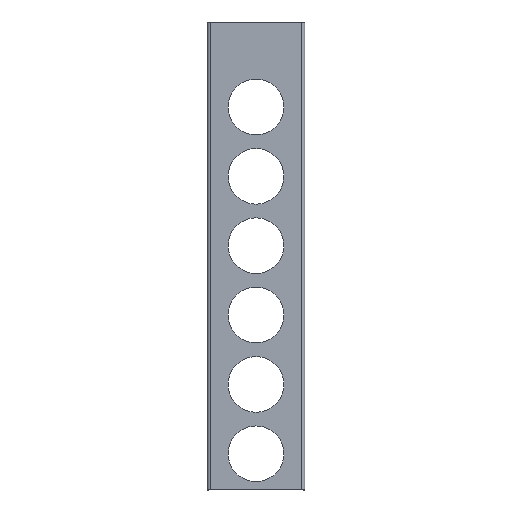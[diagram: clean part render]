
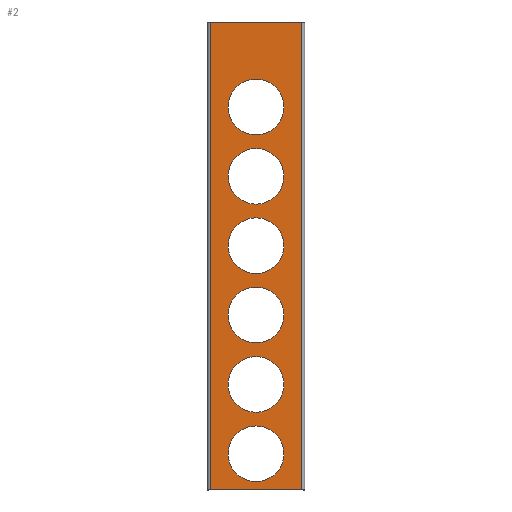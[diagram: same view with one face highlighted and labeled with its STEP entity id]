
A CAD part, top view. The second image highlights one B-rep face of the part: STEP entity #2.
In plain terms, the highlighted planar face has unit normal (0, 0, 1).
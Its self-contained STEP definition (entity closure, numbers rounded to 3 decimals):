
#2 = ADVANCED_FACE ( 'NONE', ( #622, #615, #613, #823, #644, #560, #625 ), #501, .T. ) ;
#36 = EDGE_CURVE ( 'NONE', #377, #369, #769, .T. ) ;
#37 = EDGE_CURVE ( 'NONE', #448, #483, #768, .T. ) ;
#40 = EDGE_CURVE ( 'NONE', #405, #389, #770, .T. ) ;
#41 = EDGE_CURVE ( 'NONE', #386, #349, #760, .T. ) ;
#50 = AXIS2_PLACEMENT_3D ( 'NONE', #361, #335, #334 ) ;
#56 = AXIS2_PLACEMENT_3D ( 'NONE', #410, #402, #400 ) ;
#59 = AXIS2_PLACEMENT_3D ( 'NONE', #420, #409, #408 ) ;
#64 = AXIS2_PLACEMENT_3D ( 'NONE', #430, #429, #428 ) ;
#66 = AXIS2_PLACEMENT_3D ( 'NONE', #368, #355, #353 ) ;
#74 = AXIS2_PLACEMENT_3D ( 'NONE', #492, #490, #488 ) ;
#75 = AXIS2_PLACEMENT_3D ( 'NONE', #495, #494, #493 ) ;
#77 = AXIS2_PLACEMENT_3D ( 'NONE', #498, #497, #496 ) ;
#80 = AXIS2_PLACEMENT_3D ( 'NONE', #511, #510, #509 ) ;
#82 = AXIS2_PLACEMENT_3D ( 'NONE', #531, #529, #528 ) ;
#109 = AXIS2_PLACEMENT_3D ( 'NONE', #388, #316, #314 ) ;
#111 = EDGE_CURVE ( 'NONE', #483, #448, #743, .T. ) ;
#115 = EDGE_CURVE ( 'NONE', #328, #325, #738, .T. ) ;
#116 = EDGE_CURVE ( 'NONE', #364, #360, #737, .T. ) ;
#117 = EDGE_CURVE ( 'NONE', #369, #377, #735, .T. ) ;
#138 = EDGE_CURVE ( 'NONE', #375, #467, #703, .T. ) ;
#144 = EDGE_CURVE ( 'NONE', #389, #385, #695, .T. ) ;
#145 = EDGE_CURVE ( 'NONE', #467, #375, #690, .T. ) ;
#147 = EDGE_CURVE ( 'NONE', #325, #328, #686, .T. ) ;
#154 = EDGE_CURVE ( 'NONE', #385, #455, #680, .T. ) ;
#157 = EDGE_CURVE ( 'NONE', #349, #386, #669, .T. ) ;
#161 = EDGE_CURVE ( 'NONE', #455, #405, #663, .T. ) ;
#162 = EDGE_CURVE ( 'NONE', #360, #364, #660, .T. ) ;
#168 = AXIS2_PLACEMENT_3D ( 'NONE', #545, #542, #541 ) ;
#171 = AXIS2_PLACEMENT_3D ( 'NONE', #540, #539, #538 ) ;
#257 = CARTESIAN_POINT ( 'NONE',  ( 28.5, 250., 40. ) ) ;
#260 = CARTESIAN_POINT ( 'NONE',  ( -28.5, 179., 40. ) ) ;
#263 = CARTESIAN_POINT ( 'NONE',  ( -47., 479., 40. ) ) ;
#266 = CARTESIAN_POINT ( 'NONE',  ( -28.5, 250., 40. ) ) ;
#271 = CARTESIAN_POINT ( 'NONE',  ( 47., 479., 40. ) ) ;
#280 = CARTESIAN_POINT ( 'NONE',  ( 47., 0., 40. ) ) ;
#281 = CARTESIAN_POINT ( 'NONE',  ( -28.5, 108., 40. ) ) ;
#282 = CARTESIAN_POINT ( 'NONE',  ( -47., 0., 40. ) ) ;
#288 = CARTESIAN_POINT ( 'NONE',  ( -28.5, 392., 40. ) ) ;
#289 = CARTESIAN_POINT ( 'NONE',  ( 28.5, 179., 40. ) ) ;
#291 = CARTESIAN_POINT ( 'NONE',  ( 28.5, 392., 40. ) ) ;
#294 = CARTESIAN_POINT ( 'NONE',  ( 28.5, 321., 40. ) ) ;
#297 = CARTESIAN_POINT ( 'NONE',  ( -28.5, 321., 40. ) ) ;
#302 = CARTESIAN_POINT ( 'NONE',  ( 28.5, 108., 40. ) ) ;
#310 = CARTESIAN_POINT ( 'NONE',  ( 28.5, 37., 40. ) ) ;
#311 = CARTESIAN_POINT ( 'NONE',  ( -28.5, 37., 40. ) ) ;
#314 = DIRECTION ( 'NONE',  ( 1., 0., 0. ) ) ;
#316 = DIRECTION ( 'NONE',  ( 0., 0., 1. ) ) ;
#325 = VERTEX_POINT ( 'NONE', #311 ) ;
#328 = VERTEX_POINT ( 'NONE', #310 ) ;
#334 = DIRECTION ( 'NONE',  ( 1., 0., 0. ) ) ;
#335 = DIRECTION ( 'NONE',  ( 0., 0., -1. ) ) ;
#338 = DIRECTION ( 'NONE',  ( 1., 0., 0. ) ) ;
#340 = CARTESIAN_POINT ( 'NONE',  ( 47., 479., 40. ) ) ;
#349 = VERTEX_POINT ( 'NONE', #302 ) ;
#353 = DIRECTION ( 'NONE',  ( 1., 0., 0. ) ) ;
#355 = DIRECTION ( 'NONE',  ( 0., 0., -1. ) ) ;
#360 = VERTEX_POINT ( 'NONE', #297 ) ;
#361 = CARTESIAN_POINT ( 'NONE',  ( 0., 321., 40. ) ) ;
#364 = VERTEX_POINT ( 'NONE', #294 ) ;
#368 = CARTESIAN_POINT ( 'NONE',  ( 0., 108., 40. ) ) ;
#369 = VERTEX_POINT ( 'NONE', #291 ) ;
#370 = DIRECTION ( 'NONE',  ( 0., 1., 0. ) ) ;
#371 = CARTESIAN_POINT ( 'NONE',  ( -47., 479., 40. ) ) ;
#375 = VERTEX_POINT ( 'NONE', #289 ) ;
#377 = VERTEX_POINT ( 'NONE', #288 ) ;
#385 = VERTEX_POINT ( 'NONE', #282 ) ;
#386 = VERTEX_POINT ( 'NONE', #281 ) ;
#388 = CARTESIAN_POINT ( 'NONE',  ( 2., 239.5, 40. ) ) ;
#389 = VERTEX_POINT ( 'NONE', #280 ) ;
#400 = DIRECTION ( 'NONE',  ( 1., 0., 0. ) ) ;
#402 = DIRECTION ( 'NONE',  ( 0., 0., -1. ) ) ;
#405 = VERTEX_POINT ( 'NONE', #271 ) ;
#408 = DIRECTION ( 'NONE',  ( 1., 0., 0. ) ) ;
#409 = DIRECTION ( 'NONE',  ( 0., 0., -1. ) ) ;
#410 = CARTESIAN_POINT ( 'NONE',  ( 0., 37., 40. ) ) ;
#411 = DIRECTION ( 'NONE',  ( -1., 0., 0. ) ) ;
#412 = CARTESIAN_POINT ( 'NONE',  ( -47., 0., 40. ) ) ;
#420 = CARTESIAN_POINT ( 'NONE',  ( 0., 179., 40. ) ) ;
#428 = DIRECTION ( 'NONE',  ( 1., 0., 0. ) ) ;
#429 = DIRECTION ( 'NONE',  ( 0., 0., -1. ) ) ;
#430 = CARTESIAN_POINT ( 'NONE',  ( 0., 179., 40. ) ) ;
#448 = VERTEX_POINT ( 'NONE', #266 ) ;
#455 = VERTEX_POINT ( 'NONE', #263 ) ;
#467 = VERTEX_POINT ( 'NONE', #260 ) ;
#483 = VERTEX_POINT ( 'NONE', #257 ) ;
#488 = DIRECTION ( 'NONE',  ( 1., 0., 0. ) ) ;
#490 = DIRECTION ( 'NONE',  ( 0., 0., -1. ) ) ;
#492 = CARTESIAN_POINT ( 'NONE',  ( 0., 392., 40. ) ) ;
#493 = DIRECTION ( 'NONE',  ( 1., 0., 0. ) ) ;
#494 = DIRECTION ( 'NONE',  ( 0., 0., -1. ) ) ;
#495 = CARTESIAN_POINT ( 'NONE',  ( 0., 321., 40. ) ) ;
#496 = DIRECTION ( 'NONE',  ( 1., 0., 0. ) ) ;
#497 = DIRECTION ( 'NONE',  ( 0., 0., -1. ) ) ;
#498 = CARTESIAN_POINT ( 'NONE',  ( 0., 37., 40. ) ) ;
#501 = PLANE ( 'NONE',  #109 ) ;
#509 = DIRECTION ( 'NONE',  ( 1., 0., 0. ) ) ;
#510 = DIRECTION ( 'NONE',  ( 0., 0., -1. ) ) ;
#511 = CARTESIAN_POINT ( 'NONE',  ( 0., 250., 40. ) ) ;
#528 = DIRECTION ( 'NONE',  ( 1., 0., 0. ) ) ;
#529 = DIRECTION ( 'NONE',  ( 0., 0., -1. ) ) ;
#530 = DIRECTION ( 'NONE',  ( 0., -1., 0. ) ) ;
#531 = CARTESIAN_POINT ( 'NONE',  ( 0., 108., 40. ) ) ;
#534 = CARTESIAN_POINT ( 'NONE',  ( 47., 0., 40. ) ) ;
#538 = DIRECTION ( 'NONE',  ( 1., 0., 0. ) ) ;
#539 = DIRECTION ( 'NONE',  ( 0., 0., -1. ) ) ;
#540 = CARTESIAN_POINT ( 'NONE',  ( 0., 250., 40. ) ) ;
#541 = DIRECTION ( 'NONE',  ( 1., 0., 0. ) ) ;
#542 = DIRECTION ( 'NONE',  ( 0., 0., -1. ) ) ;
#545 = CARTESIAN_POINT ( 'NONE',  ( 0., 392., 40. ) ) ;
#560 = FACE_BOUND ( 'NONE', #576, .T. ) ;
#563 = ORIENTED_EDGE ( 'NONE', *, *, #37, .T. ) ;
#567 = ORIENTED_EDGE ( 'NONE', *, *, #36, .T. ) ;
#574 = ORIENTED_EDGE ( 'NONE', *, *, #117, .T. ) ;
#576 = EDGE_LOOP ( 'NONE', ( #655, #563 ) ) ;
#578 = EDGE_LOOP ( 'NONE', ( #583, #645 ) ) ;
#581 = EDGE_LOOP ( 'NONE', ( #616, #840 ) ) ;
#582 = EDGE_LOOP ( 'NONE', ( #896, #746 ) ) ;
#583 = ORIENTED_EDGE ( 'NONE', *, *, #116, .T. ) ;
#585 = EDGE_LOOP ( 'NONE', ( #902, #898 ) ) ;
#613 = FACE_BOUND ( 'NONE', #582, .T. ) ;
#615 = FACE_BOUND ( 'NONE', #585, .T. ) ;
#616 = ORIENTED_EDGE ( 'NONE', *, *, #157, .T. ) ;
#622 = FACE_OUTER_BOUND ( 'NONE', #699, .T. ) ;
#625 = FACE_BOUND ( 'NONE', #581, .T. ) ;
#632 = EDGE_LOOP ( 'NONE', ( #574, #567 ) ) ;
#644 = FACE_BOUND ( 'NONE', #632, .T. ) ;
#645 = ORIENTED_EDGE ( 'NONE', *, *, #162, .T. ) ;
#655 = ORIENTED_EDGE ( 'NONE', *, *, #111, .T. ) ;
#660 = CIRCLE ( 'NONE', #50, 28.5 ) ;
#662 = VECTOR ( 'NONE', #338, 1000. ) ;
#663 = LINE ( 'NONE', #340, #662 ) ;
#669 = CIRCLE ( 'NONE', #66, 28.5 ) ;
#679 = VECTOR ( 'NONE', #370, 1000. ) ;
#680 = LINE ( 'NONE', #371, #679 ) ;
#686 = CIRCLE ( 'NONE', #56, 28.5 ) ;
#690 = CIRCLE ( 'NONE', #59, 28.5 ) ;
#693 = VECTOR ( 'NONE', #411, 1000. ) ;
#695 = LINE ( 'NONE', #412, #693 ) ;
#699 = EDGE_LOOP ( 'NONE', ( #894, #895, #897, #900 ) ) ;
#703 = CIRCLE ( 'NONE', #64, 28.5 ) ;
#735 = CIRCLE ( 'NONE', #74, 28.5 ) ;
#737 = CIRCLE ( 'NONE', #75, 28.5 ) ;
#738 = CIRCLE ( 'NONE', #77, 28.5 ) ;
#743 = CIRCLE ( 'NONE', #80, 28.5 ) ;
#746 = ORIENTED_EDGE ( 'NONE', *, *, #145, .T. ) ;
#760 = CIRCLE ( 'NONE', #82, 28.5 ) ;
#765 = VECTOR ( 'NONE', #530, 1000. ) ;
#768 = CIRCLE ( 'NONE', #171, 28.5 ) ;
#769 = CIRCLE ( 'NONE', #168, 28.5 ) ;
#770 = LINE ( 'NONE', #534, #765 ) ;
#823 = FACE_BOUND ( 'NONE', #578, .T. ) ;
#840 = ORIENTED_EDGE ( 'NONE', *, *, #41, .T. ) ;
#894 = ORIENTED_EDGE ( 'NONE', *, *, #161, .F. ) ;
#895 = ORIENTED_EDGE ( 'NONE', *, *, #154, .F. ) ;
#896 = ORIENTED_EDGE ( 'NONE', *, *, #138, .T. ) ;
#897 = ORIENTED_EDGE ( 'NONE', *, *, #144, .F. ) ;
#898 = ORIENTED_EDGE ( 'NONE', *, *, #147, .T. ) ;
#900 = ORIENTED_EDGE ( 'NONE', *, *, #40, .F. ) ;
#902 = ORIENTED_EDGE ( 'NONE', *, *, #115, .T. ) ;
